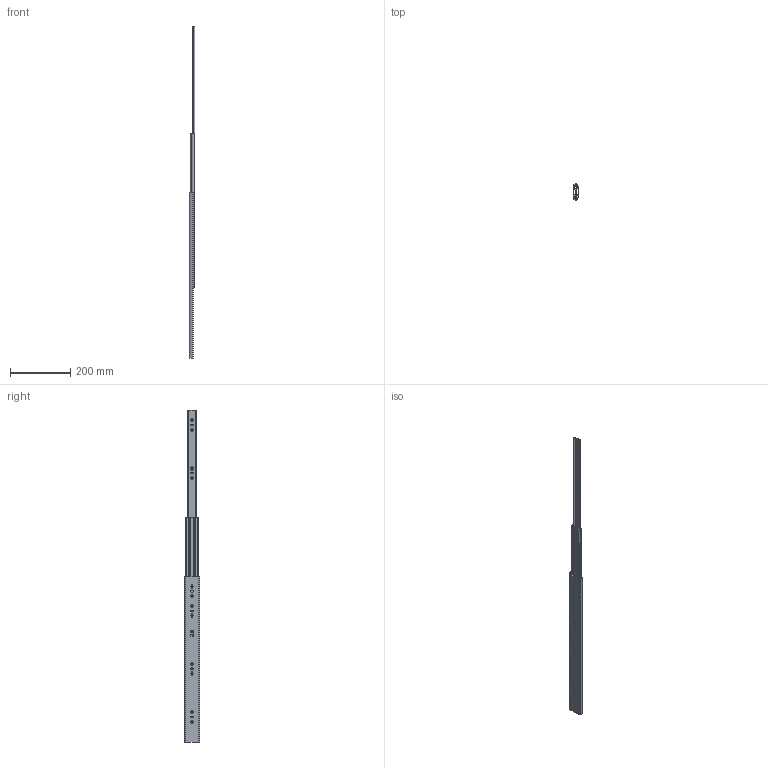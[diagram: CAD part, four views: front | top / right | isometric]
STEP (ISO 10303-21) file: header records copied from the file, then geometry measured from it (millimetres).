
FILE_DESCRIPTION (( 'STEP AP214' ), '1' );
FILE_NAME ('DSCHMD550MM-OPEN.STEP', '2018-11-26T13:44:09', ( '' ), ( '' ), 'SwSTEP 2.0', 'SolidWorks 2017', '' );
FILE_SCHEMA (( 'AUTOMOTIVE_DESIGN' ));
Length unit declared in the file: millimetre
Products named in the file (4): DSCHMD-3_550; DSCHMD550MM-OPEN; DSCHMD-2_550; DSCHMD-1_550
Assembly tree (3 placements, depth 2):
  DSCHMD550MM-OPEN
    DSCHMD-3_550
    DSCHMD-2_550
    DSCHMD-1_550
Bounding box: 18.7 x 53 x 1100 mm (x, y, z)
Volume: 182321.8 mm3; surface area: 191124.2 mm2
Topology: 3 solids, 3 shells, 1028 faces, 2868 edges, 1912 vertices
Faces by surface type: plane 557, bspline 237, cylinder 178, cone 56
Entity records: 34804 total; most frequent: CARTESIAN_POINT 9579, ORIENTED_EDGE 5736, DIRECTION 4288, EDGE_CURVE 2868, VERTEX_POINT 1912, VECTOR 1870, LINE 1870, AXIS2_PLACEMENT_3D 1209
